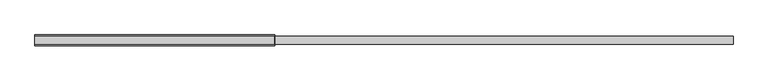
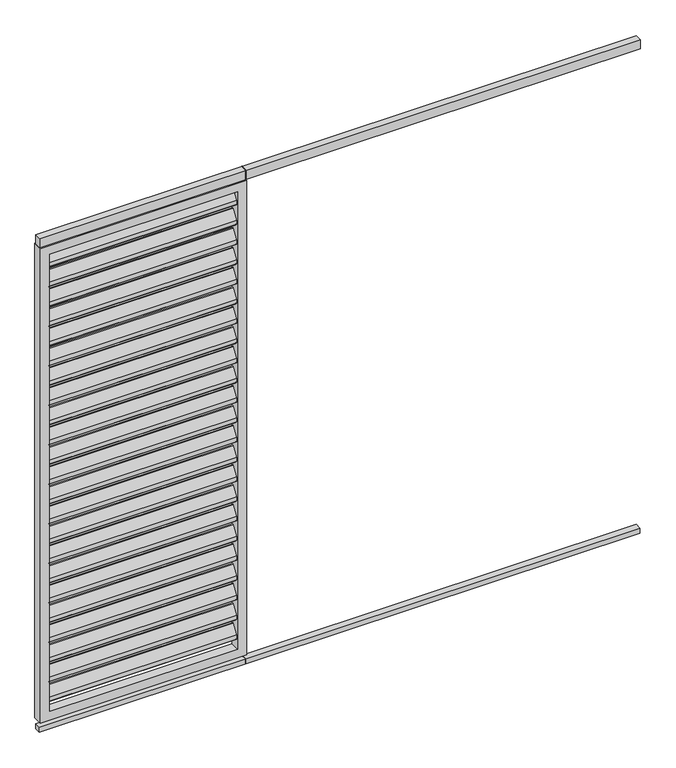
"""IFC4 building model written with IfcOpenShell, lengths in millimetres: proxy geometry, Renson_Camargue_Loggia_Paro_Aluminium : Renson_Camargue_Loggia_Paro_Aluminium."""

from ifc_helpers import new_model, si_unit, point, frame, frame_2d, origin, origin_with_axes, place, context, project, spatial, polyline, circle_curve, trimmed, segment, composite_curve, outline, extrude, source, transform, mapped, element, save


def generic_models_3065fe86(model_context):
    return source(origin(), model_context, "Body", "SweptSolid", [
        extrude(outline(composite_curve([segment(trimmed(circle_curve(frame_2d((12.6675921, 2162.6587719)), 3.0), [point((10.1515804, 2164.292689))], [point((15.6675921, 2162.6587719))], False, "CARTESIAN"), True, "CONTINUOUS"), segment(polyline([(15.6675921, 2162.6587719), (15.6675921, 2144.2979873)]), True, "CONTINUOUS"), segment(trimmed(circle_curve(frame_2d((12.6675921, 2144.2979873)), 3.0), [point((15.6675921, 2144.2979873))], [point((15.1836038, 2142.6640702))], False, "CARTESIAN"), True, "CONTINUOUS"), segment(polyline([(15.1836038, 2142.6640702), (-8.8163962, 2105.707311)]), True, "CONTINUOUS"), segment(trimmed(circle_curve(frame_2d((-11.3324079, 2107.3412281)), 3.0), [point((-8.8163962, 2105.707311))], [point((-14.3324079, 2107.3412281))], False, "CARTESIAN"), True, "CONTINUOUS"), segment(polyline([(-14.3324079, 2107.3412281), (-14.3324079, 2126.5906532), (10.1515804, 2164.292689)]), True, "CONTINUOUS")], self_intersect=False)), frame((-405.0, 0.0, 0.0), z_axis=(1.0, 0.0, 0.0), x_axis=(0.0, 1.0, 0.0)), (0.0, 0.0, 1.0), 810.0),
        extrude(outline(composite_curve([segment(trimmed(circle_curve(frame_2d((12.6675921, 2072.6587719)), 3.0), [point((10.1515804, 2074.292689))], [point((15.6675921, 2072.6587719))], False, "CARTESIAN"), True, "CONTINUOUS"), segment(polyline([(15.6675921, 2072.6587719), (15.6675921, 2054.2979873)]), True, "CONTINUOUS"), segment(trimmed(circle_curve(frame_2d((12.6675921, 2054.2979873)), 3.0), [point((15.6675921, 2054.2979873))], [point((15.1836038, 2052.6640702))], False, "CARTESIAN"), True, "CONTINUOUS"), segment(polyline([(15.1836038, 2052.6640702), (-8.8163962, 2015.707311)]), True, "CONTINUOUS"), segment(trimmed(circle_curve(frame_2d((-11.3324079, 2017.3412281)), 3.0), [point((-8.8163962, 2015.707311))], [point((-14.3324079, 2017.3412281))], False, "CARTESIAN"), True, "CONTINUOUS"), segment(polyline([(-14.3324079, 2017.3412281), (-14.3324079, 2036.5906532), (10.1515804, 2074.292689)]), True, "CONTINUOUS")], self_intersect=False)), frame((-405.0, 0.0, 0.0), z_axis=(1.0, 0.0, 0.0), x_axis=(0.0, 1.0, 0.0)), (0.0, 0.0, 1.0), 810.0),
        extrude(outline(composite_curve([segment(trimmed(circle_curve(frame_2d((12.6675921, 1982.6587719)), 3.0), [point((10.1515804, 1984.292689))], [point((15.6675921, 1982.6587719))], False, "CARTESIAN"), True, "CONTINUOUS"), segment(polyline([(15.6675921, 1982.6587719), (15.6675921, 1964.2979873)]), True, "CONTINUOUS"), segment(trimmed(circle_curve(frame_2d((12.6675921, 1964.2979873)), 3.0), [point((15.6675921, 1964.2979873))], [point((15.1836038, 1962.6640702))], False, "CARTESIAN"), True, "CONTINUOUS"), segment(polyline([(15.1836038, 1962.6640702), (-8.8163962, 1925.707311)]), True, "CONTINUOUS"), segment(trimmed(circle_curve(frame_2d((-11.3324079, 1927.3412281)), 3.0), [point((-8.8163962, 1925.707311))], [point((-14.3324079, 1927.3412281))], False, "CARTESIAN"), True, "CONTINUOUS"), segment(polyline([(-14.3324079, 1927.3412281), (-14.3324079, 1946.5906532), (10.1515804, 1984.292689)]), True, "CONTINUOUS")], self_intersect=False)), frame((-405.0, 0.0, 0.0), z_axis=(1.0, 0.0, 0.0), x_axis=(0.0, 1.0, 0.0)), (0.0, 0.0, 1.0), 810.0),
        extrude(outline(composite_curve([segment(trimmed(circle_curve(frame_2d((12.6675921, 1892.6587719)), 3.0), [point((10.1515804, 1894.292689))], [point((15.6675921, 1892.6587719))], False, "CARTESIAN"), True, "CONTINUOUS"), segment(polyline([(15.6675921, 1892.6587719), (15.6675921, 1874.2979873)]), True, "CONTINUOUS"), segment(trimmed(circle_curve(frame_2d((12.6675921, 1874.2979873)), 3.0), [point((15.6675921, 1874.2979873))], [point((15.1836038, 1872.6640702))], False, "CARTESIAN"), True, "CONTINUOUS"), segment(polyline([(15.1836038, 1872.6640702), (-8.8163962, 1835.707311)]), True, "CONTINUOUS"), segment(trimmed(circle_curve(frame_2d((-11.3324079, 1837.3412281)), 3.0), [point((-8.8163962, 1835.707311))], [point((-14.3324079, 1837.3412281))], False, "CARTESIAN"), True, "CONTINUOUS"), segment(polyline([(-14.3324079, 1837.3412281), (-14.3324079, 1856.5906532), (10.1515804, 1894.292689)]), True, "CONTINUOUS")], self_intersect=False)), frame((-405.0, 0.0, 0.0), z_axis=(1.0, 0.0, 0.0), x_axis=(0.0, 1.0, 0.0)), (0.0, 0.0, 1.0), 810.0),
        extrude(outline(composite_curve([segment(trimmed(circle_curve(frame_2d((12.6675921, 1802.6587719)), 3.0), [point((10.1515804, 1804.292689))], [point((15.6675921, 1802.6587719))], False, "CARTESIAN"), True, "CONTINUOUS"), segment(polyline([(15.6675921, 1802.6587719), (15.6675921, 1784.2979873)]), True, "CONTINUOUS"), segment(trimmed(circle_curve(frame_2d((12.6675921, 1784.2979873)), 3.0), [point((15.6675921, 1784.2979873))], [point((15.1836038, 1782.6640702))], False, "CARTESIAN"), True, "CONTINUOUS"), segment(polyline([(15.1836038, 1782.6640702), (-8.8163962, 1745.707311)]), True, "CONTINUOUS"), segment(trimmed(circle_curve(frame_2d((-11.3324079, 1747.3412281)), 3.0), [point((-8.8163962, 1745.707311))], [point((-14.3324079, 1747.3412281))], False, "CARTESIAN"), True, "CONTINUOUS"), segment(polyline([(-14.3324079, 1747.3412281), (-14.3324079, 1766.5906532), (10.1515804, 1804.292689)]), True, "CONTINUOUS")], self_intersect=False)), frame((-405.0, 0.0, 0.0), z_axis=(1.0, 0.0, 0.0), x_axis=(0.0, 1.0, 0.0)), (0.0, 0.0, 1.0), 810.0),
        extrude(outline(composite_curve([segment(trimmed(circle_curve(frame_2d((12.6675921, 1712.6587719)), 3.0), [point((10.1515804, 1714.292689))], [point((15.6675921, 1712.6587719))], False, "CARTESIAN"), True, "CONTINUOUS"), segment(polyline([(15.6675921, 1712.6587719), (15.6675921, 1694.2979873)]), True, "CONTINUOUS"), segment(trimmed(circle_curve(frame_2d((12.6675921, 1694.2979873)), 3.0), [point((15.6675921, 1694.2979873))], [point((15.1836038, 1692.6640702))], False, "CARTESIAN"), True, "CONTINUOUS"), segment(polyline([(15.1836038, 1692.6640702), (-8.8163962, 1655.707311)]), True, "CONTINUOUS"), segment(trimmed(circle_curve(frame_2d((-11.3324079, 1657.3412281)), 3.0), [point((-8.8163962, 1655.707311))], [point((-14.3324079, 1657.3412281))], False, "CARTESIAN"), True, "CONTINUOUS"), segment(polyline([(-14.3324079, 1657.3412281), (-14.3324079, 1676.5906532), (10.1515804, 1714.292689)]), True, "CONTINUOUS")], self_intersect=False)), frame((-405.0, 0.0, 0.0), z_axis=(1.0, 0.0, 0.0), x_axis=(0.0, 1.0, 0.0)), (0.0, 0.0, 1.0), 810.0),
        extrude(outline(composite_curve([segment(trimmed(circle_curve(frame_2d((12.6675921, 1622.6587719)), 3.0), [point((10.1515804, 1624.292689))], [point((15.6675921, 1622.6587719))], False, "CARTESIAN"), True, "CONTINUOUS"), segment(polyline([(15.6675921, 1622.6587719), (15.6675921, 1604.2979873)]), True, "CONTINUOUS"), segment(trimmed(circle_curve(frame_2d((12.6675921, 1604.2979873)), 3.0), [point((15.6675921, 1604.2979873))], [point((15.1836038, 1602.6640702))], False, "CARTESIAN"), True, "CONTINUOUS"), segment(polyline([(15.1836038, 1602.6640702), (-8.8163962, 1565.707311)]), True, "CONTINUOUS"), segment(trimmed(circle_curve(frame_2d((-11.3324079, 1567.3412281)), 3.0), [point((-8.8163962, 1565.707311))], [point((-14.3324079, 1567.3412281))], False, "CARTESIAN"), True, "CONTINUOUS"), segment(polyline([(-14.3324079, 1567.3412281), (-14.3324079, 1586.5906532), (10.1515804, 1624.292689)]), True, "CONTINUOUS")], self_intersect=False)), frame((-405.0, 0.0, 0.0), z_axis=(1.0, 0.0, 0.0), x_axis=(0.0, 1.0, 0.0)), (0.0, 0.0, 1.0), 810.0),
        extrude(outline(composite_curve([segment(trimmed(circle_curve(frame_2d((12.6675921, 1532.6587719)), 3.0), [point((10.1515804, 1534.292689))], [point((15.6675921, 1532.6587719))], False, "CARTESIAN"), True, "CONTINUOUS"), segment(polyline([(15.6675921, 1532.6587719), (15.6675921, 1514.2979873)]), True, "CONTINUOUS"), segment(trimmed(circle_curve(frame_2d((12.6675921, 1514.2979873)), 3.0), [point((15.6675921, 1514.2979873))], [point((15.1836038, 1512.6640702))], False, "CARTESIAN"), True, "CONTINUOUS"), segment(polyline([(15.1836038, 1512.6640702), (-8.8163962, 1475.707311)]), True, "CONTINUOUS"), segment(trimmed(circle_curve(frame_2d((-11.3324079, 1477.3412281)), 3.0), [point((-8.8163962, 1475.707311))], [point((-14.3324079, 1477.3412281))], False, "CARTESIAN"), True, "CONTINUOUS"), segment(polyline([(-14.3324079, 1477.3412281), (-14.3324079, 1496.5906532), (10.1515804, 1534.292689)]), True, "CONTINUOUS")], self_intersect=False)), frame((-405.0, 0.0, 0.0), z_axis=(1.0, 0.0, 0.0), x_axis=(0.0, 1.0, 0.0)), (0.0, 0.0, 1.0), 810.0),
        extrude(outline(composite_curve([segment(trimmed(circle_curve(frame_2d((12.6675921, 1442.6587719)), 3.0), [point((10.1515804, 1444.292689))], [point((15.6675921, 1442.6587719))], False, "CARTESIAN"), True, "CONTINUOUS"), segment(polyline([(15.6675921, 1442.6587719), (15.6675921, 1424.2979873)]), True, "CONTINUOUS"), segment(trimmed(circle_curve(frame_2d((12.6675921, 1424.2979873)), 3.0), [point((15.6675921, 1424.2979873))], [point((15.1836038, 1422.6640702))], False, "CARTESIAN"), True, "CONTINUOUS"), segment(polyline([(15.1836038, 1422.6640702), (-8.8163962, 1385.707311)]), True, "CONTINUOUS"), segment(trimmed(circle_curve(frame_2d((-11.3324079, 1387.3412281)), 3.0), [point((-8.8163962, 1385.707311))], [point((-14.3324079, 1387.3412281))], False, "CARTESIAN"), True, "CONTINUOUS"), segment(polyline([(-14.3324079, 1387.3412281), (-14.3324079, 1406.5906532), (10.1515804, 1444.292689)]), True, "CONTINUOUS")], self_intersect=False)), frame((-405.0, 0.0, 0.0), z_axis=(1.0, 0.0, 0.0), x_axis=(0.0, 1.0, 0.0)), (0.0, 0.0, 1.0), 810.0),
        extrude(outline(composite_curve([segment(trimmed(circle_curve(frame_2d((12.6675921, 1352.6587719)), 3.0), [point((10.1515804, 1354.292689))], [point((15.6675921, 1352.6587719))], False, "CARTESIAN"), True, "CONTINUOUS"), segment(polyline([(15.6675921, 1352.6587719), (15.6675921, 1334.2979873)]), True, "CONTINUOUS"), segment(trimmed(circle_curve(frame_2d((12.6675921, 1334.2979873)), 3.0), [point((15.6675921, 1334.2979873))], [point((15.1836038, 1332.6640702))], False, "CARTESIAN"), True, "CONTINUOUS"), segment(polyline([(15.1836038, 1332.6640702), (-8.8163962, 1295.707311)]), True, "CONTINUOUS"), segment(trimmed(circle_curve(frame_2d((-11.3324079, 1297.3412281)), 3.0), [point((-8.8163962, 1295.707311))], [point((-14.3324079, 1297.3412281))], False, "CARTESIAN"), True, "CONTINUOUS"), segment(polyline([(-14.3324079, 1297.3412281), (-14.3324079, 1316.5906532), (10.1515804, 1354.292689)]), True, "CONTINUOUS")], self_intersect=False)), frame((-405.0, 0.0, 0.0), z_axis=(1.0, 0.0, 0.0), x_axis=(0.0, 1.0, 0.0)), (0.0, 0.0, 1.0), 810.0),
        extrude(outline(composite_curve([segment(trimmed(circle_curve(frame_2d((12.6675921, 1262.6587719)), 3.0), [point((10.1515804, 1264.292689))], [point((15.6675921, 1262.6587719))], False, "CARTESIAN"), True, "CONTINUOUS"), segment(polyline([(15.6675921, 1262.6587719), (15.6675921, 1244.2979873)]), True, "CONTINUOUS"), segment(trimmed(circle_curve(frame_2d((12.6675921, 1244.2979873)), 3.0), [point((15.6675921, 1244.2979873))], [point((15.1836038, 1242.6640702))], False, "CARTESIAN"), True, "CONTINUOUS"), segment(polyline([(15.1836038, 1242.6640702), (-8.8163962, 1205.707311)]), True, "CONTINUOUS"), segment(trimmed(circle_curve(frame_2d((-11.3324079, 1207.3412281)), 3.0), [point((-8.8163962, 1205.707311))], [point((-14.3324079, 1207.3412281))], False, "CARTESIAN"), True, "CONTINUOUS"), segment(polyline([(-14.3324079, 1207.3412281), (-14.3324079, 1226.5906532), (10.1515804, 1264.292689)]), True, "CONTINUOUS")], self_intersect=False)), frame((-405.0, 0.0, 0.0), z_axis=(1.0, 0.0, 0.0), x_axis=(0.0, 1.0, 0.0)), (0.0, 0.0, 1.0), 810.0),
        extrude(outline(composite_curve([segment(trimmed(circle_curve(frame_2d((12.6675921, 1172.6587719)), 3.0), [point((10.1515804, 1174.292689))], [point((15.6675921, 1172.6587719))], False, "CARTESIAN"), True, "CONTINUOUS"), segment(polyline([(15.6675921, 1172.6587719), (15.6675921, 1154.2979873)]), True, "CONTINUOUS"), segment(trimmed(circle_curve(frame_2d((12.6675921, 1154.2979873)), 3.0), [point((15.6675921, 1154.2979873))], [point((15.1836038, 1152.6640702))], False, "CARTESIAN"), True, "CONTINUOUS"), segment(polyline([(15.1836038, 1152.6640702), (-8.8163962, 1115.707311)]), True, "CONTINUOUS"), segment(trimmed(circle_curve(frame_2d((-11.3324079, 1117.3412281)), 3.0), [point((-8.8163962, 1115.707311))], [point((-14.3324079, 1117.3412281))], False, "CARTESIAN"), True, "CONTINUOUS"), segment(polyline([(-14.3324079, 1117.3412281), (-14.3324079, 1136.5906532), (10.1515804, 1174.292689)]), True, "CONTINUOUS")], self_intersect=False)), frame((-405.0, 0.0, 0.0), z_axis=(1.0, 0.0, 0.0), x_axis=(0.0, 1.0, 0.0)), (0.0, 0.0, 1.0), 810.0),
        extrude(outline(composite_curve([segment(trimmed(circle_curve(frame_2d((12.6675921, 1082.6587719)), 3.0), [point((10.1515804, 1084.292689))], [point((15.6675921, 1082.6587719))], False, "CARTESIAN"), True, "CONTINUOUS"), segment(polyline([(15.6675921, 1082.6587719), (15.6675921, 1064.2979873)]), True, "CONTINUOUS"), segment(trimmed(circle_curve(frame_2d((12.6675921, 1064.2979873)), 3.0), [point((15.6675921, 1064.2979873))], [point((15.1836038, 1062.6640702))], False, "CARTESIAN"), True, "CONTINUOUS"), segment(polyline([(15.1836038, 1062.6640702), (-8.8163962, 1025.707311)]), True, "CONTINUOUS"), segment(trimmed(circle_curve(frame_2d((-11.3324079, 1027.3412281)), 3.0), [point((-8.8163962, 1025.707311))], [point((-14.3324079, 1027.3412281))], False, "CARTESIAN"), True, "CONTINUOUS"), segment(polyline([(-14.3324079, 1027.3412281), (-14.3324079, 1046.5906532), (10.1515804, 1084.292689)]), True, "CONTINUOUS")], self_intersect=False)), frame((-405.0, 0.0, 0.0), z_axis=(1.0, 0.0, 0.0), x_axis=(0.0, 1.0, 0.0)), (0.0, 0.0, 1.0), 810.0),
        extrude(outline(composite_curve([segment(trimmed(circle_curve(frame_2d((12.6675921, 992.6587719)), 3.0), [point((10.1515804, 994.292689))], [point((15.6675921, 992.6587719))], False, "CARTESIAN"), True, "CONTINUOUS"), segment(polyline([(15.6675921, 992.6587719), (15.6675921, 974.2979873)]), True, "CONTINUOUS"), segment(trimmed(circle_curve(frame_2d((12.6675921, 974.2979873)), 3.0), [point((15.6675921, 974.2979873))], [point((15.1836038, 972.6640702))], False, "CARTESIAN"), True, "CONTINUOUS"), segment(polyline([(15.1836038, 972.6640702), (-8.8163962, 935.707311)]), True, "CONTINUOUS"), segment(trimmed(circle_curve(frame_2d((-11.3324079, 937.3412281)), 3.0), [point((-8.8163962, 935.707311))], [point((-14.3324079, 937.3412281))], False, "CARTESIAN"), True, "CONTINUOUS"), segment(polyline([(-14.3324079, 937.3412281), (-14.3324079, 956.5906532), (10.1515804, 994.292689)]), True, "CONTINUOUS")], self_intersect=False)), frame((-405.0, 0.0, 0.0), z_axis=(1.0, 0.0, 0.0), x_axis=(0.0, 1.0, 0.0)), (0.0, 0.0, 1.0), 810.0),
        extrude(outline(composite_curve([segment(trimmed(circle_curve(frame_2d((12.6675921, 902.6587719)), 3.0), [point((10.1515804, 904.292689))], [point((15.6675921, 902.6587719))], False, "CARTESIAN"), True, "CONTINUOUS"), segment(polyline([(15.6675921, 902.6587719), (15.6675921, 884.2979873)]), True, "CONTINUOUS"), segment(trimmed(circle_curve(frame_2d((12.6675921, 884.2979873)), 3.0), [point((15.6675921, 884.2979873))], [point((15.1836038, 882.6640702))], False, "CARTESIAN"), True, "CONTINUOUS"), segment(polyline([(15.1836038, 882.6640702), (-8.8163962, 845.707311)]), True, "CONTINUOUS"), segment(trimmed(circle_curve(frame_2d((-11.3324079, 847.3412281)), 3.0), [point((-8.8163962, 845.707311))], [point((-14.3324079, 847.3412281))], False, "CARTESIAN"), True, "CONTINUOUS"), segment(polyline([(-14.3324079, 847.3412281), (-14.3324079, 866.5906532), (10.1515804, 904.292689)]), True, "CONTINUOUS")], self_intersect=False)), frame((-405.0, 0.0, 0.0), z_axis=(1.0, 0.0, 0.0), x_axis=(0.0, 1.0, 0.0)), (0.0, 0.0, 1.0), 810.0),
        extrude(outline(composite_curve([segment(trimmed(circle_curve(frame_2d((12.6675921, 812.6587719)), 3.0), [point((10.1515804, 814.292689))], [point((15.6675921, 812.6587719))], False, "CARTESIAN"), True, "CONTINUOUS"), segment(polyline([(15.6675921, 812.6587719), (15.6675921, 794.2979873)]), True, "CONTINUOUS"), segment(trimmed(circle_curve(frame_2d((12.6675921, 794.2979873)), 3.0), [point((15.6675921, 794.2979873))], [point((15.1836038, 792.6640702))], False, "CARTESIAN"), True, "CONTINUOUS"), segment(polyline([(15.1836038, 792.6640702), (-8.8163962, 755.707311)]), True, "CONTINUOUS"), segment(trimmed(circle_curve(frame_2d((-11.3324079, 757.3412281)), 3.0), [point((-8.8163962, 755.707311))], [point((-14.3324079, 757.3412281))], False, "CARTESIAN"), True, "CONTINUOUS"), segment(polyline([(-14.3324079, 757.3412281), (-14.3324079, 776.5906532), (10.1515804, 814.292689)]), True, "CONTINUOUS")], self_intersect=False)), frame((-405.0, 0.0, 0.0), z_axis=(1.0, 0.0, 0.0), x_axis=(0.0, 1.0, 0.0)), (0.0, 0.0, 1.0), 810.0),
        extrude(outline(composite_curve([segment(trimmed(circle_curve(frame_2d((12.6675921, 722.6587719)), 3.0), [point((10.1515804, 724.292689))], [point((15.6675921, 722.6587719))], False, "CARTESIAN"), True, "CONTINUOUS"), segment(polyline([(15.6675921, 722.6587719), (15.6675921, 704.2979873)]), True, "CONTINUOUS"), segment(trimmed(circle_curve(frame_2d((12.6675921, 704.2979873)), 3.0), [point((15.6675921, 704.2979873))], [point((15.1836038, 702.6640702))], False, "CARTESIAN"), True, "CONTINUOUS"), segment(polyline([(15.1836038, 702.6640702), (-8.8163962, 665.707311)]), True, "CONTINUOUS"), segment(trimmed(circle_curve(frame_2d((-11.3324079, 667.3412281)), 3.0), [point((-8.8163962, 665.707311))], [point((-14.3324079, 667.3412281))], False, "CARTESIAN"), True, "CONTINUOUS"), segment(polyline([(-14.3324079, 667.3412281), (-14.3324079, 686.5906532), (10.1515804, 724.292689)]), True, "CONTINUOUS")], self_intersect=False)), frame((-405.0, 0.0, 0.0), z_axis=(1.0, 0.0, 0.0), x_axis=(0.0, 1.0, 0.0)), (0.0, 0.0, 1.0), 810.0),
        extrude(outline(composite_curve([segment(trimmed(circle_curve(frame_2d((12.6675921, 632.6587719)), 3.0), [point((10.1515804, 634.292689))], [point((15.6675921, 632.6587719))], False, "CARTESIAN"), True, "CONTINUOUS"), segment(polyline([(15.6675921, 632.6587719), (15.6675921, 614.2979873)]), True, "CONTINUOUS"), segment(trimmed(circle_curve(frame_2d((12.6675921, 614.2979873)), 3.0), [point((15.6675921, 614.2979873))], [point((15.1836038, 612.6640702))], False, "CARTESIAN"), True, "CONTINUOUS"), segment(polyline([(15.1836038, 612.6640702), (-8.8163962, 575.707311)]), True, "CONTINUOUS"), segment(trimmed(circle_curve(frame_2d((-11.3324079, 577.3412281)), 3.0), [point((-8.8163962, 575.707311))], [point((-14.3324079, 577.3412281))], False, "CARTESIAN"), True, "CONTINUOUS"), segment(polyline([(-14.3324079, 577.3412281), (-14.3324079, 596.5906532), (10.1515804, 634.292689)]), True, "CONTINUOUS")], self_intersect=False)), frame((-405.0, 0.0, 0.0), z_axis=(1.0, 0.0, 0.0), x_axis=(0.0, 1.0, 0.0)), (0.0, 0.0, 1.0), 810.0),
        extrude(outline(composite_curve([segment(trimmed(circle_curve(frame_2d((12.6675921, 542.6587719)), 3.0), [point((10.1515804, 544.292689))], [point((15.6675921, 542.6587719))], False, "CARTESIAN"), True, "CONTINUOUS"), segment(polyline([(15.6675921, 542.6587719), (15.6675921, 524.2979873)]), True, "CONTINUOUS"), segment(trimmed(circle_curve(frame_2d((12.6675921, 524.2979873)), 3.0), [point((15.6675921, 524.2979873))], [point((15.1836038, 522.6640702))], False, "CARTESIAN"), True, "CONTINUOUS"), segment(polyline([(15.1836038, 522.6640702), (-8.8163962, 485.707311)]), True, "CONTINUOUS"), segment(trimmed(circle_curve(frame_2d((-11.3324079, 487.3412281)), 3.0), [point((-8.8163962, 485.707311))], [point((-14.3324079, 487.3412281))], False, "CARTESIAN"), True, "CONTINUOUS"), segment(polyline([(-14.3324079, 487.3412281), (-14.3324079, 506.5906532), (10.1515804, 544.292689)]), True, "CONTINUOUS")], self_intersect=False)), frame((-405.0, 0.0, 0.0), z_axis=(1.0, 0.0, 0.0), x_axis=(0.0, 1.0, 0.0)), (0.0, 0.0, 1.0), 810.0),
        extrude(outline(composite_curve([segment(trimmed(circle_curve(frame_2d((12.6675921, 452.6587719)), 3.0), [point((10.1515804, 454.292689))], [point((15.6675921, 452.6587719))], False, "CARTESIAN"), True, "CONTINUOUS"), segment(polyline([(15.6675921, 452.6587719), (15.6675921, 434.2979873)]), True, "CONTINUOUS"), segment(trimmed(circle_curve(frame_2d((12.6675921, 434.2979873)), 3.0), [point((15.6675921, 434.2979873))], [point((15.1836038, 432.6640702))], False, "CARTESIAN"), True, "CONTINUOUS"), segment(polyline([(15.1836038, 432.6640702), (-8.8163962, 395.707311)]), True, "CONTINUOUS"), segment(trimmed(circle_curve(frame_2d((-11.3324079, 397.3412281)), 3.0), [point((-8.8163962, 395.707311))], [point((-14.3324079, 397.3412281))], False, "CARTESIAN"), True, "CONTINUOUS"), segment(polyline([(-14.3324079, 397.3412281), (-14.3324079, 416.5906532), (10.1515804, 454.292689)]), True, "CONTINUOUS")], self_intersect=False)), frame((-405.0, 0.0, 0.0), z_axis=(1.0, 0.0, 0.0), x_axis=(0.0, 1.0, 0.0)), (0.0, 0.0, 1.0), 810.0),
        extrude(outline(composite_curve([segment(trimmed(circle_curve(frame_2d((12.6675921, 362.6587719)), 3.0), [point((10.1515804, 364.292689))], [point((15.6675921, 362.6587719))], False, "CARTESIAN"), True, "CONTINUOUS"), segment(polyline([(15.6675921, 362.6587719), (15.6675921, 344.2979873)]), True, "CONTINUOUS"), segment(trimmed(circle_curve(frame_2d((12.6675921, 344.2979873)), 3.0), [point((15.6675921, 344.2979873))], [point((15.1836038, 342.6640702))], False, "CARTESIAN"), True, "CONTINUOUS"), segment(polyline([(15.1836038, 342.6640702), (-8.8163962, 305.707311)]), True, "CONTINUOUS"), segment(trimmed(circle_curve(frame_2d((-11.3324079, 307.3412281)), 3.0), [point((-8.8163962, 305.707311))], [point((-14.3324079, 307.3412281))], False, "CARTESIAN"), True, "CONTINUOUS"), segment(polyline([(-14.3324079, 307.3412281), (-14.3324079, 326.5906532), (10.1515804, 364.292689)]), True, "CONTINUOUS")], self_intersect=False)), frame((-405.0, 0.0, 0.0), z_axis=(1.0, 0.0, 0.0), x_axis=(0.0, 1.0, 0.0)), (0.0, 0.0, 1.0), 810.0),
        extrude(outline(composite_curve([segment(trimmed(circle_curve(frame_2d((12.6675921, 272.6587719)), 3.0), [point((10.1515804, 274.292689))], [point((15.6675921, 272.6587719))], False, "CARTESIAN"), True, "CONTINUOUS"), segment(polyline([(15.6675921, 272.6587719), (15.6675921, 254.2979873)]), True, "CONTINUOUS"), segment(trimmed(circle_curve(frame_2d((12.6675921, 254.2979873)), 3.0), [point((15.6675921, 254.2979873))], [point((15.1836038, 252.6640702))], False, "CARTESIAN"), True, "CONTINUOUS"), segment(polyline([(15.1836038, 252.6640702), (-8.8163962, 215.707311)]), True, "CONTINUOUS"), segment(trimmed(circle_curve(frame_2d((-11.3324079, 217.3412281)), 3.0), [point((-8.8163962, 215.707311))], [point((-14.3324079, 217.3412281))], False, "CARTESIAN"), True, "CONTINUOUS"), segment(polyline([(-14.3324079, 217.3412281), (-14.3324079, 236.5906532), (10.1515804, 274.292689)]), True, "CONTINUOUS")], self_intersect=False)), frame((-405.0, 0.0, 0.0), z_axis=(1.0, 0.0, 0.0), x_axis=(0.0, 1.0, 0.0)), (0.0, 0.0, 1.0), 810.0),
        extrude(outline(composite_curve([segment(trimmed(circle_curve(frame_2d((12.6675921, 182.6587719)), 3.0), [point((10.1515804, 184.292689))], [point((15.6675921, 182.6587719))], False, "CARTESIAN"), True, "CONTINUOUS"), segment(polyline([(15.6675921, 182.6587719), (15.6675921, 164.2979873)]), True, "CONTINUOUS"), segment(trimmed(circle_curve(frame_2d((12.6675921, 164.2979873)), 3.0), [point((15.6675921, 164.2979873))], [point((15.1836038, 162.6640702))], False, "CARTESIAN"), True, "CONTINUOUS"), segment(polyline([(15.1836038, 162.6640702), (-8.8163962, 125.707311)]), True, "CONTINUOUS"), segment(trimmed(circle_curve(frame_2d((-11.3324079, 127.3412281)), 3.0), [point((-8.8163962, 125.707311))], [point((-14.3324079, 127.3412281))], False, "CARTESIAN"), True, "CONTINUOUS"), segment(polyline([(-14.3324079, 127.3412281), (-14.3324079, 146.5906532), (10.1515804, 184.292689)]), True, "CONTINUOUS")], self_intersect=False)), frame((-405.0, 0.0, 0.0), z_axis=(1.0, 0.0, 0.0), x_axis=(0.0, 1.0, 0.0)), (0.0, 0.0, 1.0), 810.0),
        extrude(outline(polyline([(445.0, 15.0), (445.0, -15.0), (444.0, -15.0), (444.0, 15.0), (445.0, 15.0)])), frame((0.0, 0.0, 2207.7138321), z_axis=(0.0, 0.0, 1.0), x_axis=(1.0, 0.0, 0.0)), (0.0, 0.0, 1.0), 42.2861679),
        extrude(outline(polyline([(2145.0, 15.0), (2145.0, -15.0), (-445.0, -15.0), (-445.0, 15.0), (2145.0, 15.0)])), frame((0.0, 0.0, 2207.7138321), z_axis=(0.0, 0.0, 1.0), x_axis=(1.0, 0.0, 0.0)), (0.0, 0.0, 1.0), 42.2861679),
        extrude(outline(polyline([(445.0, -13.0), (444.0, -13.0), (444.0, 14.0), (445.0, 14.0), (445.0, -13.0)])), origin_with_axes(), (0.0, 0.0, 1.0), 23.0),
        extrude(outline(polyline([(2145.0, -13.0), (-445.0, -13.0), (-445.0, 14.0), (2145.0, 14.0), (2145.0, -13.0)])), origin_with_axes(), (0.0, 0.0, 1.0), 23.0),
        extrude(outline(polyline([(2207.7138321, -445.0), (45.0, -445.0), (45.0, 445.0), (2207.7138321, 445.0), (2207.7138321, -445.0)]), holes=[polyline([(2167.7138321, 405.0), (85.0, 405.0), (85.0, -405.0), (2167.7138321, -405.0), (2167.7138321, 405.0)])]), frame((0.0, -20.0, 0.0), z_axis=(0.0, 1.0, 0.0), x_axis=(0.0, 0.0, 1.0)), (0.0, 0.0, 1.0), 40.0),
    ])


if __name__ == "__main__":
    model = new_model("IFC4")
    model_context = context("Model", 3, world=origin())
    ifc_project = project(units=[si_unit("LENGTHUNIT", "METRE", prefix="MILLI")], contexts=[model_context])
    site = spatial("IfcSite", under=ifc_project)
    building = spatial("IfcBuilding", under=site)
    placement = place(None, origin())
    generic_models_shape = generic_models_3065fe86(model_context)
    element("IfcBuildingElementProxy", 1, Name="Renson_Camargue_Loggia_Paro_Aluminium : Renson_Camargue_Loggia_Paro_Aluminium", ObjectType="Renson_Camargue_Loggia_Paro_Aluminium : Renson_Camargue_Loggia_Paro_Aluminium", at=placement, inside=building, context=model_context, shape_type="MappedRepresentation", body=[
        mapped(generic_models_shape, transform((0.0, 0.0, 0.0), x_axis=(1.0, 0.0, 0.0), y_axis=(0.0, 1.0, 0.0), z_axis=(0.0, 0.0, 1.0))),
    ])
    save(model, "model.ifc")
